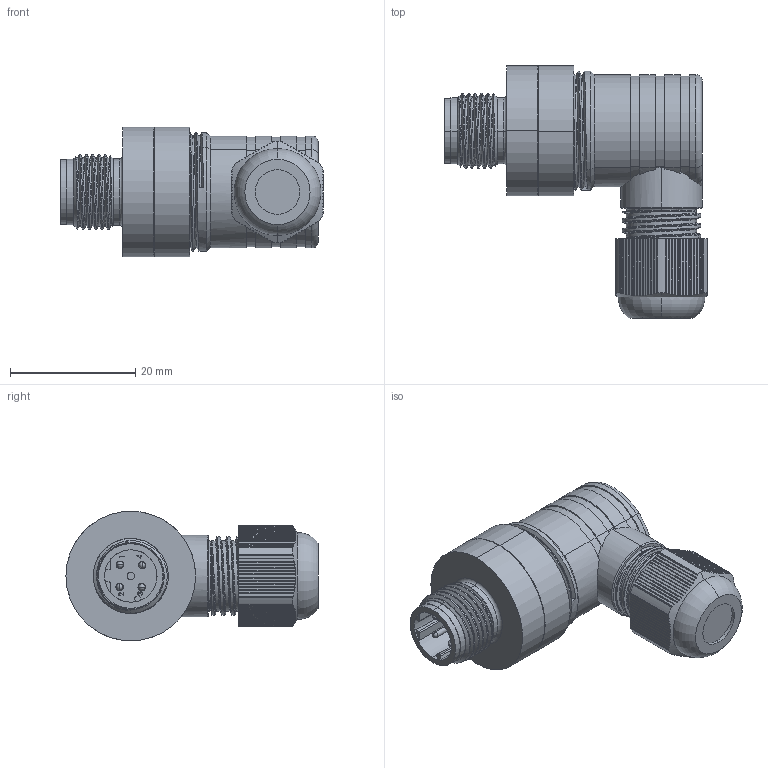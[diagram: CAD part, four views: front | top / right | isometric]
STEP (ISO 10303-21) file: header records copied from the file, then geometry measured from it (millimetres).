
FILE_DESCRIPTION (( 'STEP AP214' ), '1' );
FILE_NAME ('MDE45-4MP-FW07-R.STEP', '2019-09-09T17:31:36', ( '' ), ( '' ), 'SwSTEP 2.0', 'SolidWorks 2018', '' );
FILE_SCHEMA (( 'AUTOMOTIVE_DESIGN' ));
Length unit declared in the file: millimetre
Products named in the file (1): MDE45-4MP-FW07-R
Bounding box: 41.99 x 40.25 x 20.7 mm (x, y, z)
Volume: 12343.7 mm3; surface area: 6068.2 mm2
Topology: 1 solids, 3 shells, 589 faces, 1637 edges, 1078 vertices
Faces by surface type: plane 365, cylinder 139, bspline 39, torus 36, cone 10
Entity records: 31694 total; most frequent: CARTESIAN_POINT 11115, ORIENTED_EDGE 3270, DIRECTION 2588, EDGE_CURVE 1635, VERTEX_POINT 1078, AXIS2_PLACEMENT_3D 866, VECTOR 856, LINE 856
